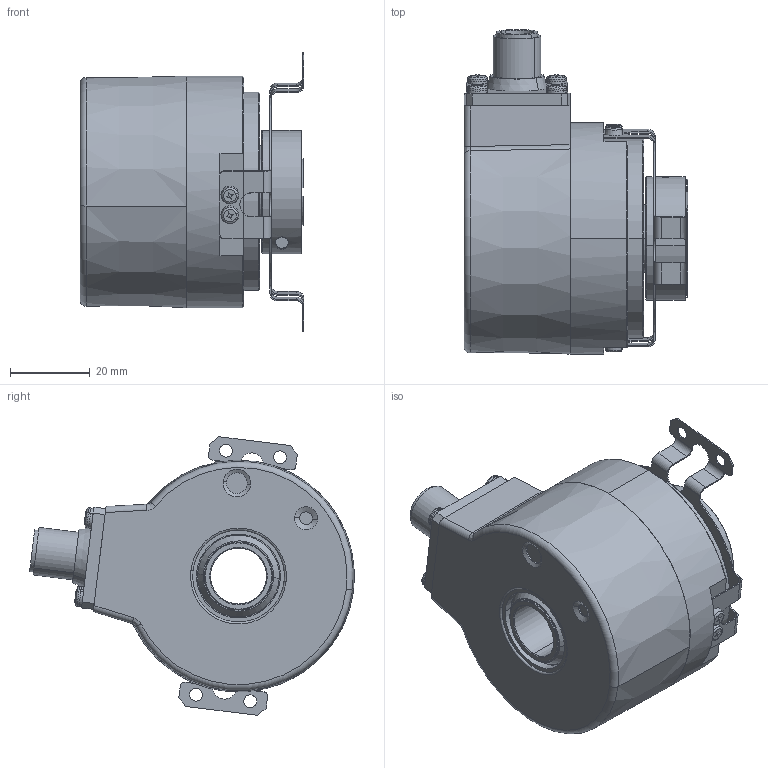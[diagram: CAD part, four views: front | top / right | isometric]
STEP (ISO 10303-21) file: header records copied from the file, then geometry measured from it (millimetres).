
FILE_DESCRIPTION (( 'STEP AP203' ), '1' );
FILE_NAME ('8.5834FSx.B5X6.XXXX.STEP', '2013-08-01T13:03:23', ( 'Admin' ), ( 'Fritz Kübler GmbH' ), 'SwSTEP 2.0', 'SolidWorks 2012', '' );
FILE_SCHEMA (( 'CONFIG_CONTROL_DESIGN' ));
Length unit declared in the file: millimetre
Products named in the file (1): 8.5834FSx.B5X6.XXXX
Bounding box: 56 x 81.25 x 69.69 mm (x, y, z)
Volume: 75547.4 mm3; surface area: 51719.9 mm2
Topology: 22 solids, 23 shells, 1214 faces, 3033 edges, 1849 vertices
Faces by surface type: plane 438, cylinder 374, cone 198, torus 100, sphere 68, bspline 36
Entity records: 38518 total; most frequent: CARTESIAN_POINT 9857, DIRECTION 6274, ORIENTED_EDGE 5774, EDGE_CURVE 2887, AXIS2_PLACEMENT_3D 2499, VERTEX_POINT 1797, EDGE_LOOP 1382, CIRCLE 1320
